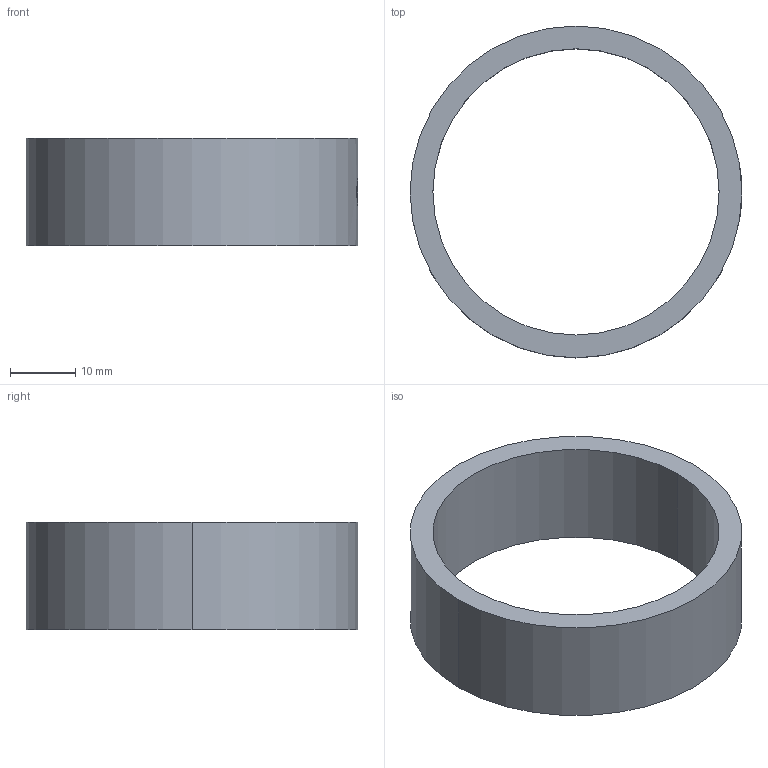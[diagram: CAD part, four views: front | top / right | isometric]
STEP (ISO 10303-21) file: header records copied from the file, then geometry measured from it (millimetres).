
FILE_DESCRIPTION (( 'STEP AP203' ), '1' );
FILE_NAME ('WJ-D 48.STEP', '2007-02-21T09:15:50', ( ' ' ), ( '' ), 'SwSTEP 2.0', 'SolidWorks 2005278', '' );
FILE_SCHEMA (( 'CONFIG_CONTROL_DESIGN' ));
Length unit declared in the file: millimetre
Products named in the file (1): WJ-D 48
Bounding box: 51 x 51 x 16.5 mm (x, y, z)
Volume: 8617.4 mm3; surface area: 5970.2 mm2
Topology: 1 solids, 1 shells, 43 faces, 117 edges, 78 vertices
Faces by surface type: plane 36, cylinder 7
Entity records: 1468 total; most frequent: CARTESIAN_POINT 299, ORIENTED_EDGE 234, DIRECTION 221, EDGE_CURVE 117, AXIS2_PLACEMENT_3D 80, VERTEX_POINT 78, VECTOR 61, LINE 61
